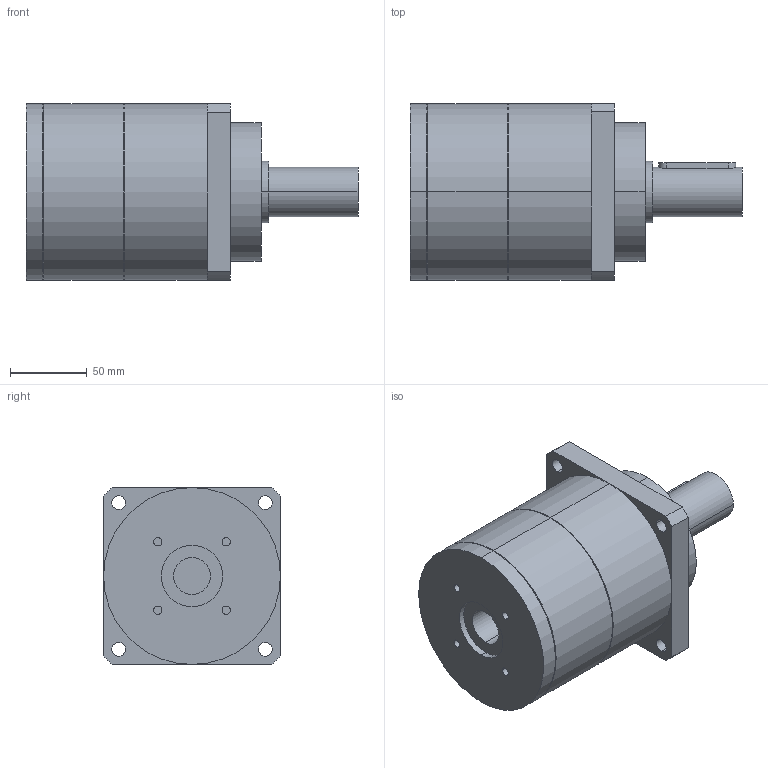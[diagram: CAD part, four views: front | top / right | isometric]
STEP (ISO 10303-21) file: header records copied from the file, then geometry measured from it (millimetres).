
FILE_DESCRIPTION(('CoCreate Modeling STEP Export'),'2;1');
FILE_NAME('GPT120_ig-3-4-5-7-10_32_B5A_24_P23.stp','2015-02-04T17:00:02',(''),(''),'CoCreate Modeling STEP processor for AP214 (Solid Model)','CoCreate Modeling 16.00C 25-Feb-2009 (C) Parametric Technology GmbH','');
FILE_SCHEMA(('AUTOMOTIVE_DESIGN { 1 0 10303 214 1 1 1 1 }'));
Length unit declared in the file: millimetre
Products named in the file (2): GPT120_ig-3-4-5-7-10_32_B5A_24_P23
Assembly tree (1 placements, depth 2):
  GPT120_ig-3-4-5-7-10_32_B5A_24_P23
    GPT120_ig-3-4-5-7-10_32_B5A_24_P23
Bounding box: 216 x 115 x 115 mm (x, y, z)
Volume: 1566832.7 mm3; surface area: 96270.1 mm2
Topology: 1 solids, 1 shells, 69 faces, 169 edges, 114 vertices
Faces by surface type: cylinder 40, plane 25, cone 4
Entity records: 2205 total; most frequent: CARTESIAN_POINT 696, ORIENTED_EDGE 338, DIRECTION 262, EDGE_CURVE 169, VERTEX_POINT 114, AXIS2_PLACEMENT_3D 98, EDGE_LOOP 89, FACE_OUTER_BOUND 69
